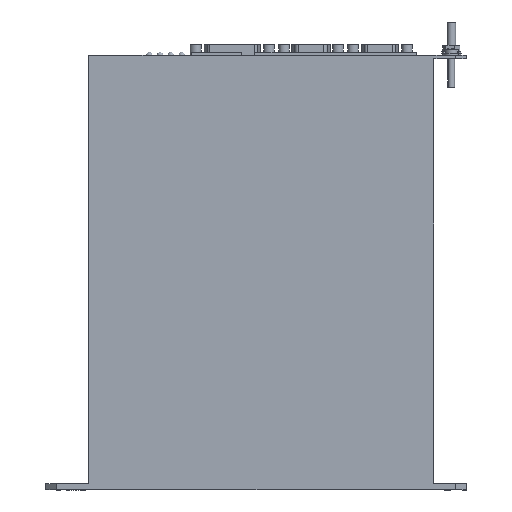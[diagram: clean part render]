
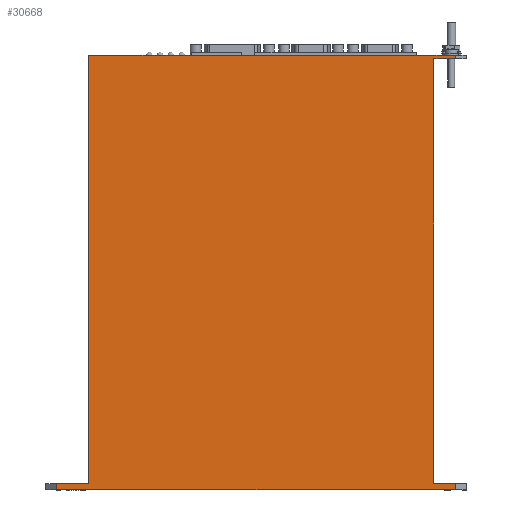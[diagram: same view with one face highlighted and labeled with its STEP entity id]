
A CAD part, left-side view. The second image highlights one B-rep face of the part: STEP entity #30668.
In plain terms, the highlighted planar face has unit normal (-1, 0, 0).
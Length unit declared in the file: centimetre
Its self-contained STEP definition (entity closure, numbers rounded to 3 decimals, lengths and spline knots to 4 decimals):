
#1473=AXIS2_PLACEMENT_3D('',#33808,#8474,$);
#2694=PLANE('',#1473);
#3679=VECTOR('',#8464,1.);
#3683=VECTOR('',#8469,1.);
#3686=VECTOR('',#8473,1.);
#3687=VECTOR('',#8475,1.);
#3688=VECTOR('',#8476,1.);
#3689=VECTOR('',#8477,1.);
#3690=VECTOR('',#8478,1.);
#3691=VECTOR('',#8479,1.);
#3692=VECTOR('',#8480,1.);
#3693=VECTOR('',#8481,1.);
#3694=VECTOR('',#8482,1.);
#3695=VECTOR('',#8483,1.);
#3696=VECTOR('',#8484,1.);
#6019=LINE('',#33793,#3679);
#6023=LINE('',#33802,#3683);
#6026=LINE('',#33807,#3686);
#6027=LINE('',#33809,#3687);
#6028=LINE('',#33811,#3688);
#6029=LINE('',#33813,#3689);
#6030=LINE('',#33815,#3690);
#6031=LINE('',#33817,#3691);
#6032=LINE('',#33819,#3692);
#6033=LINE('',#33821,#3693);
#6034=LINE('',#33823,#3694);
#6035=LINE('',#33825,#3695);
#6036=LINE('',#33827,#3696);
#8464=DIRECTION('',(0.,0.,-1.));
#8469=DIRECTION('',(0.,0.,1.));
#8473=DIRECTION('',(0.,1.,0.));
#8474=DIRECTION('',(-1.,0.,0.));
#8475=DIRECTION('',(0.,1.,0.));
#8476=DIRECTION('',(0.,0.,-1.));
#8477=DIRECTION('',(0.,1.,0.));
#8478=DIRECTION('',(0.,0.,-1.));
#8479=DIRECTION('',(0.,1.,0.));
#8480=DIRECTION('',(0.,0.,1.));
#8481=DIRECTION('',(0.,1.,0.));
#8482=DIRECTION('',(0.,0.,1.));
#8483=DIRECTION('',(0.,-1.,0.));
#8484=DIRECTION('',(0.,0.,1.));
#12405=VERTEX_POINT('',#33792);
#12406=VERTEX_POINT('',#33794);
#12409=VERTEX_POINT('',#33801);
#12410=VERTEX_POINT('',#33803);
#12411=VERTEX_POINT('',#33810);
#12412=VERTEX_POINT('',#33812);
#12413=VERTEX_POINT('',#33814);
#12414=VERTEX_POINT('',#33816);
#12415=VERTEX_POINT('',#33818);
#12416=VERTEX_POINT('',#33820);
#12417=VERTEX_POINT('',#33822);
#12418=VERTEX_POINT('',#33824);
#12419=VERTEX_POINT('',#33826);
#12420=VERTEX_POINT('',#33828);
#16211=EDGE_CURVE('',#12406,#12405,#6019,.T.);
#16215=EDGE_CURVE('',#12410,#12409,#6023,.T.);
#16218=EDGE_CURVE('',#12405,#12410,#6026,.T.);
#16219=EDGE_CURVE('',#12409,#12411,#6027,.T.);
#16220=EDGE_CURVE('',#12411,#12412,#6028,.T.);
#16221=EDGE_CURVE('',#12412,#12413,#6029,.T.);
#16222=EDGE_CURVE('',#12413,#12414,#6030,.T.);
#16223=EDGE_CURVE('',#12415,#12414,#6031,.T.);
#16224=EDGE_CURVE('',#12415,#12416,#6032,.T.);
#16225=EDGE_CURVE('',#12416,#12417,#6033,.T.);
#16226=EDGE_CURVE('',#12417,#12418,#6034,.T.);
#16227=EDGE_CURVE('',#12418,#12419,#6035,.T.);
#16228=EDGE_CURVE('',#12419,#12420,#6036,.T.);
#16229=EDGE_CURVE('',#12420,#12406,#6027,.T.);
#20343=ORIENTED_EDGE('',*,*,#16211,.T.);
#20344=ORIENTED_EDGE('',*,*,#16218,.T.);
#20345=ORIENTED_EDGE('',*,*,#16215,.T.);
#20346=ORIENTED_EDGE('',*,*,#16219,.T.);
#20347=ORIENTED_EDGE('',*,*,#16220,.T.);
#20348=ORIENTED_EDGE('',*,*,#16221,.T.);
#20349=ORIENTED_EDGE('',*,*,#16222,.T.);
#20350=ORIENTED_EDGE('',*,*,#16223,.F.);
#20351=ORIENTED_EDGE('',*,*,#16224,.T.);
#20352=ORIENTED_EDGE('',*,*,#16225,.T.);
#20353=ORIENTED_EDGE('',*,*,#16226,.T.);
#20354=ORIENTED_EDGE('',*,*,#16227,.T.);
#20355=ORIENTED_EDGE('',*,*,#16228,.T.);
#20356=ORIENTED_EDGE('',*,*,#16229,.T.);
#27189=EDGE_LOOP('',(#20343,#20344,#20345,#20346,#20347,#20348,#20349,#20350,
#20351,#20352,#20353,#20354,#20355,#20356));
#28929=FACE_BOUND('',#27189,.T.);
#30668=ADVANCED_FACE('',(#28929),#2694,.T.);
#33792=CARTESIAN_POINT('',(0.,1.5,20.14));
#33793=CARTESIAN_POINT('',(0.,1.5,10.075));
#33794=CARTESIAN_POINT('',(0.,1.5,20.15));
#33801=CARTESIAN_POINT('',(0.,1.6,20.15));
#33802=CARTESIAN_POINT('',(0.,1.6,10.075));
#33803=CARTESIAN_POINT('',(0.,1.6,20.14));
#33807=CARTESIAN_POINT('',(0.,5.65,20.14));
#33808=CARTESIAN_POINT('',(0.,9.75,0.));
#33809=CARTESIAN_POINT('',(0.,0.,20.15));
#33810=CARTESIAN_POINT('',(0.,17.5,20.15));
#33811=CARTESIAN_POINT('',(0.,17.5,10.075));
#33812=CARTESIAN_POINT('',(0.,17.5,0.3));
#33813=CARTESIAN_POINT('',(0.,14.175,0.3));
#33814=CARTESIAN_POINT('',(0.,19.,0.3));
#33815=CARTESIAN_POINT('',(0.,19.,0.15));
#33816=CARTESIAN_POINT('',(0.,19.,0.));
#33817=CARTESIAN_POINT('',(0.,0.,0.));
#33818=CARTESIAN_POINT('',(0.,0.5,0.));
#33819=CARTESIAN_POINT('',(0.,0.5,0.15));
#33820=CARTESIAN_POINT('',(0.,0.5,0.3));
#33821=CARTESIAN_POINT('',(0.,5.2,0.3));
#33822=CARTESIAN_POINT('',(0.,1.5,0.3));
#33823=CARTESIAN_POINT('',(0.,1.5,10.075));
#33824=CARTESIAN_POINT('',(0.,1.5,20.));
#33825=CARTESIAN_POINT('',(0.,1.5,20.));
#33826=CARTESIAN_POINT('',(0.,0.5,20.));
#33827=CARTESIAN_POINT('',(0.,0.5,10.075));
#33828=CARTESIAN_POINT('',(0.,0.5,20.15));
